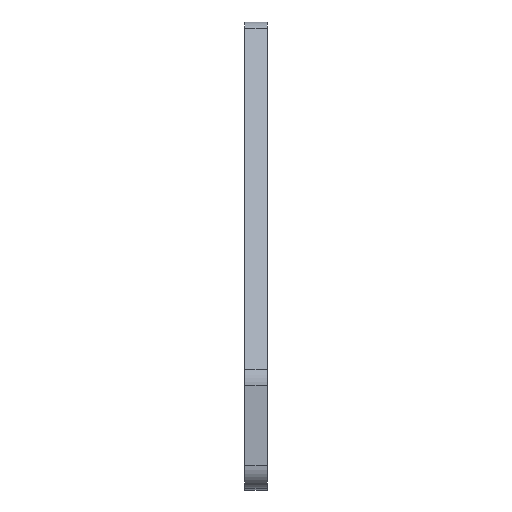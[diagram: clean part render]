
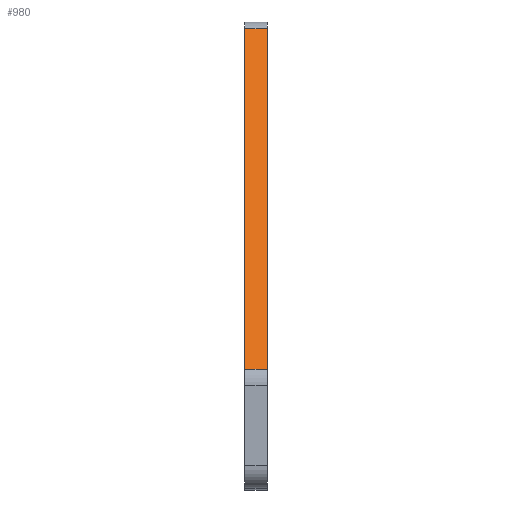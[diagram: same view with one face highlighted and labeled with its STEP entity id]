
A CAD part, top view. The second image highlights one B-rep face of the part: STEP entity #980.
In plain terms, the highlighted planar face has unit normal (0, 0.707, 0.707).
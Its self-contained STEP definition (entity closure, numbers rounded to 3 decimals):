
#7 = VERTEX_POINT ( 'NONE', #340 ) ;
#10 = VERTEX_POINT ( 'NONE', #1025 ) ;
#97 = VECTOR ( 'NONE', #904, 1000. ) ;
#125 = EDGE_CURVE ( 'NONE', #1092, #949, #958, .T. ) ;
#138 = DIRECTION ( 'NONE',  ( -1., 0., 0. ) ) ;
#167 = DIRECTION ( 'NONE',  ( 0., -0.707, -0.707 ) ) ;
#180 = DIRECTION ( 'NONE',  ( -1., 0., 0. ) ) ;
#188 = DIRECTION ( 'NONE',  ( 0., -0.707, 0.707 ) ) ;
#203 = CARTESIAN_POINT ( 'NONE',  ( 2., -23.414, 40.414 ) ) ;
#206 = CARTESIAN_POINT ( 'NONE',  ( 0., -23.414, 40.414 ) ) ;
#225 = EDGE_CURVE ( 'NONE', #7, #1092, #1069, .T. ) ;
#302 = EDGE_CURVE ( 'NONE', #10, #949, #965, .T. ) ;
#340 = CARTESIAN_POINT ( 'NONE',  ( 2., 6.914, 10.086 ) ) ;
#382 = CARTESIAN_POINT ( 'NONE',  ( 2., 8.5, 8.5 ) ) ;
#412 = FACE_OUTER_BOUND ( 'NONE', #836, .T. ) ;
#457 = CARTESIAN_POINT ( 'NONE',  ( 2., 6.914, 10.086 ) ) ;
#458 = LINE ( 'NONE', #382, #97 ) ;
#460 = VECTOR ( 'NONE', #138, 1000. ) ;
#473 = ORIENTED_EDGE ( 'NONE', *, *, #302, .F. ) ;
#618 = CARTESIAN_POINT ( 'NONE',  ( 0., 8.5, 8.5 ) ) ;
#648 = VECTOR ( 'NONE', #180, 1000. ) ;
#774 = ORIENTED_EDGE ( 'NONE', *, *, #914, .F. ) ;
#836 = EDGE_LOOP ( 'NONE', ( #935, #473, #774, #842 ) ) ;
#841 = PLANE ( 'NONE',  #1103 ) ;
#842 = ORIENTED_EDGE ( 'NONE', *, *, #225, .T. ) ;
#904 = DIRECTION ( 'NONE',  ( 0., -0.707, 0.707 ) ) ;
#914 = EDGE_CURVE ( 'NONE', #7, #10, #458, .T. ) ;
#915 = VECTOR ( 'NONE', #188, 1000. ) ;
#920 = CARTESIAN_POINT ( 'NONE',  ( 2., 8.5, 8.5 ) ) ;
#935 = ORIENTED_EDGE ( 'NONE', *, *, #125, .T. ) ;
#949 = VERTEX_POINT ( 'NONE', #206 ) ;
#958 = LINE ( 'NONE', #618, #915 ) ;
#965 = LINE ( 'NONE', #203, #648 ) ;
#980 = ADVANCED_FACE ( 'NONE', ( #412 ), #841, .F. ) ;
#1005 = CARTESIAN_POINT ( 'NONE',  ( 0., 6.914, 10.086 ) ) ;
#1025 = CARTESIAN_POINT ( 'NONE',  ( 2., -23.414, 40.414 ) ) ;
#1069 = LINE ( 'NONE', #457, #460 ) ;
#1092 = VERTEX_POINT ( 'NONE', #1005 ) ;
#1103 = AXIS2_PLACEMENT_3D ( 'NONE', #920, #167, #1106 ) ;
#1106 = DIRECTION ( 'NONE',  ( 0., 0.707, -0.707 ) ) ;
